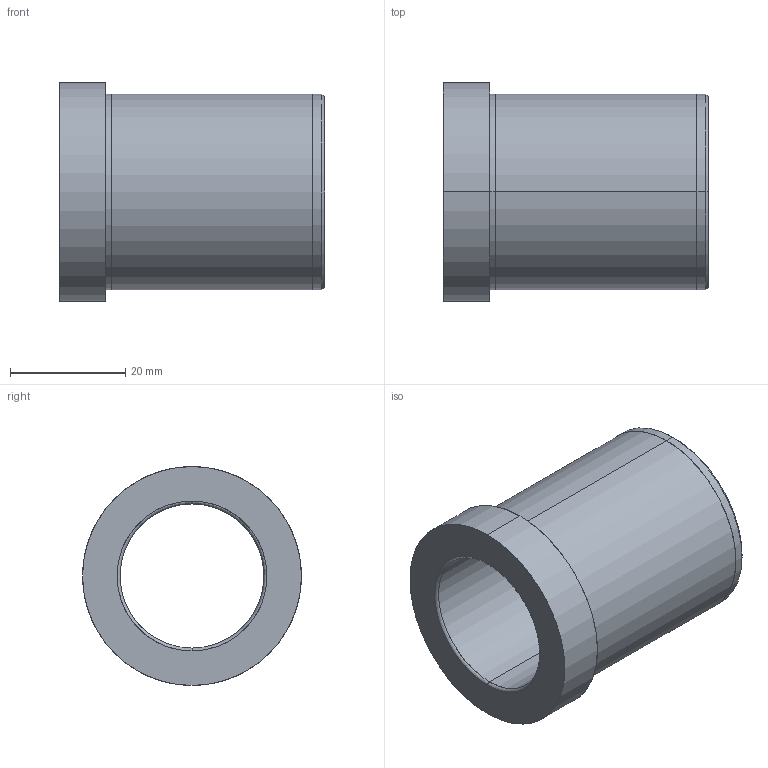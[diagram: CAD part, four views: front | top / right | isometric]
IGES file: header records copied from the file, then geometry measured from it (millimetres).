
Start section: SolidWorks IGES file using analytic representation for surfaces
Global section: file name: C:\Documents and Settings\kalite-mail\Desktop\IGS\D20\D20 - 25x46.IGS; native system: SolidWorks 2008; preprocessor: SolidWorks 2008; author: kalite-mail; date: 080617.114325; units: millimetre
Bounding box: 46 x 38 x 38 mm (x, y, z)
Surface area: 9852.5 mm2 (no closed solid volume)
Topology: 0 solids, 0 shells, 21 faces, 640 edges, 640 vertices
Faces by surface type: revolution 12, bspline 9
